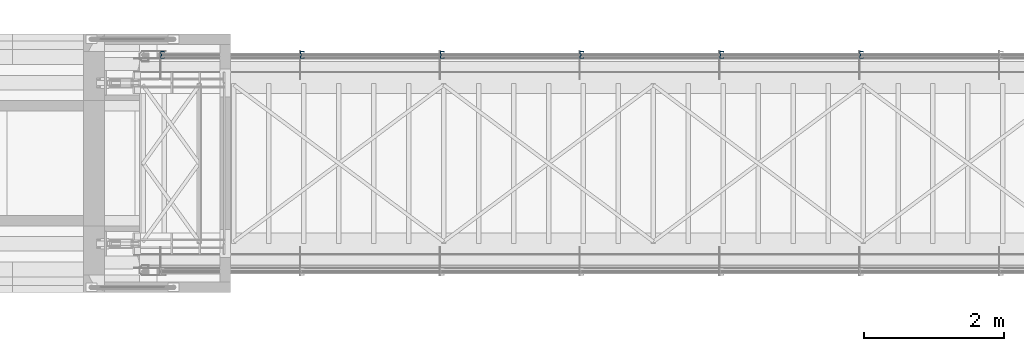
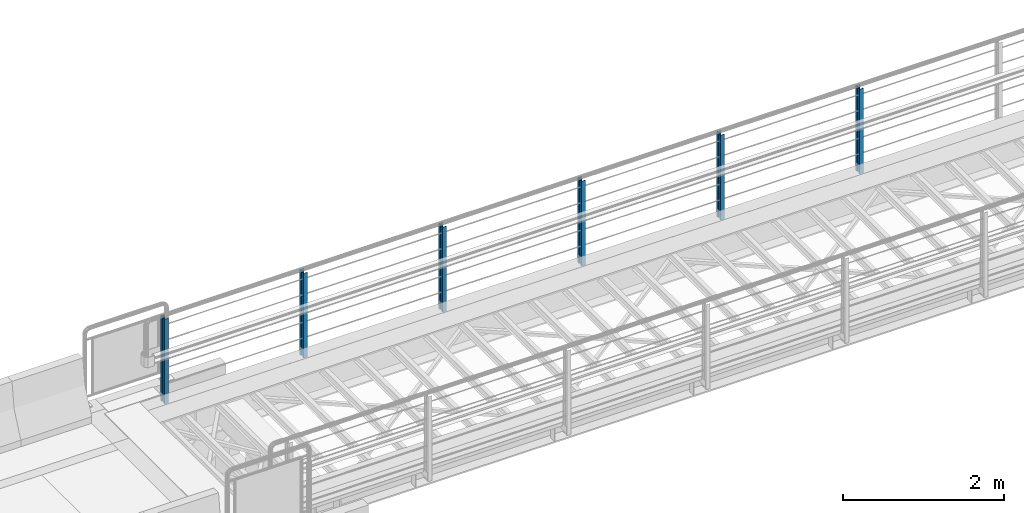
# One storey, part 1 of 31: 6 columns.
"""IFC2X3 building model written with IfcOpenShell, lengths in millimetres."""

import ifcopenshell
import ifcopenshell.guid

model = None  # the IFC model being written
_history = None  # IfcOwnerHistory: only IFC2X3 demands one
_inside = {}  # id of a spatial element -> (the spatial element, [elements in it])
_under = {}  # id of a project, library or spatial element -> (it, [spatial elements below it])
_declared = {}  # id of a project -> (the project, [libraries it declares])
_typed = {}  # id of a type object -> (the type object, [elements of that type])
_made_of = {}  # id of a material, layer set ... -> (it, [elements and type objects made of it])


def new_model(schema):
    """Start an empty IFC model of exactly this schema.

    Asked for "IFC4X3", IfcOpenShell would pick the latest addendum, in which some entities
    have other attributes; the version numbers below select the first issue.
    IFC2X3 requires an IfcOwnerHistory on every rooted entity: one is made here for all.
    """
    global model, _history
    if schema == "IFC4X3":
        model = ifcopenshell.file(schema_version=(4, 3, 0, 0))
    else:
        model = ifcopenshell.file(schema=schema)
    _inside.clear()
    _under.clear()
    _declared.clear()
    _typed.clear()
    _made_of.clear()
    _history = None
    if model.schema == "IFC2X3":
        org = make("IfcOrganization", Name="unknown")
        user = make(
            "IfcPersonAndOrganization",
            ThePerson=make("IfcPerson", FamilyName="unknown"),
            TheOrganization=org,
        )
        app = make(
            "IfcApplication",
            ApplicationDeveloper=org,
            Version="unknown",
            ApplicationFullName="unknown",
            ApplicationIdentifier="unknown",
        )
        _history = make(
            "IfcOwnerHistory",
            OwningUser=user,
            OwningApplication=app,
            ChangeAction="ADDED",
            CreationDate=0,
        )
    return model


def make(cls, **values):
    """One entity of the class cls with the attributes given. An attribute that is None is left unset."""
    return model.create_entity(
        cls, **{name: value for name, value in values.items() if value is not None}
    )


def rooted(cls, **values):
    """An entity with a GlobalId (a new one), such as an element, a storey or a relation."""
    return make(cls, GlobalId=ifcopenshell.guid.new(), OwnerHistory=_history, **values)


def si_unit(unit_type, name, prefix=None):
    """IfcSIUnit, for example si_unit("LENGTHUNIT", "METRE", prefix="MILLI")."""
    return make("IfcSIUnit", UnitType=unit_type, Prefix=prefix, Name=name)


def assignment(units):
    """IfcUnitAssignment: the units of a project."""
    return None if units is None else make("IfcUnitAssignment", Units=units)


def point(xyz):
    """IfcCartesianPoint."""
    return None if xyz is None else make("IfcCartesianPoint", Coordinates=xyz)


def direction(xyz):
    """IfcDirection."""
    return None if xyz is None else make("IfcDirection", DirectionRatios=xyz)


def frame(location, z_axis=None, x_axis=None):
    """IfcAxis2Placement3D, a coordinate frame: its origin and axes. An axis left out is left unset."""
    return make(
        "IfcAxis2Placement3D",
        Location=point(location),
        Axis=direction(z_axis),
        RefDirection=direction(x_axis),
    )


def origin_with_axes():
    """The frame at (0, 0, 0) with the z axis (0, 0, 1) and the x axis (1, 0, 0) written out."""
    return frame((0.0, 0.0, 0.0), z_axis=(0.0, 0.0, 1.0), x_axis=(1.0, 0.0, 0.0))


def place(relative_to, where):
    """IfcLocalPlacement: puts the frame where relative to a parent placement (None: the world)."""
    return make(
        "IfcLocalPlacement", PlacementRelTo=relative_to, RelativePlacement=where
    )


def context(
    kind, dimensions, precision=None, world=None, true_north=None, identifier=None
):
    """IfcGeometricRepresentationContext, for example the 3D "Model" context."""
    return make(
        "IfcGeometricRepresentationContext",
        ContextIdentifier=identifier,
        ContextType=kind,
        CoordinateSpaceDimension=dimensions,
        Precision=precision,
        WorldCoordinateSystem=world,
        TrueNorth=true_north,
    )


def subcontext(parent, identifier, kind, view, scale=None):
    """IfcGeometricRepresentationSubContext, for example "Body" below "Model"."""
    return make(
        "IfcGeometricRepresentationSubContext",
        ContextIdentifier=identifier,
        ContextType=kind,
        ParentContext=parent,
        TargetScale=scale,
        TargetView=view,
    )


def project(units=None, contexts=None):
    """IfcProject with its units and contexts."""
    return rooted(
        "IfcProject",
        Name="project",
        RepresentationContexts=contexts,
        UnitsInContext=assignment(units),
    )


def spatial(cls, under=None, at=None, **own):
    """A site, building, storey or space (cls), placed at a placement, below another one or the project."""
    s = rooted(cls, ObjectPlacement=at, **own)
    if under is not None:
        _under.setdefault(under.id(), (under, []))[1].append(s)
    return s


def faces_of(points, faces, orient=None, outer=None):
    """IfcFace entities. A face is a list of loops; a loop is a list of indices into points, from 0.

    orient and outer hold one flag for each loop. By default every Orientation is true, the
    first loop of a face is its IfcFaceOuterBound and the others are IfcFaceBound.
    """
    made = []
    for i, loops in enumerate(faces):
        bounds = []
        for j, loop in enumerate(loops):
            is_outer = j == 0 if outer is None else outer[i][j]
            bounds.append(
                make(
                    "IfcFaceOuterBound" if is_outer else "IfcFaceBound",
                    Bound=make("IfcPolyLoop", Polygon=[points[k] for k in loop]),
                    Orientation=True if orient is None else orient[i][j],
                )
            )
        made.append(make("IfcFace", Bounds=bounds))
    return made


def faceted_brep(points, faces, orient=None, outer=None, voids=None):
    """IfcFacetedBrep: a solid bounded by flat faces; with voids (closed shells), ...WithVoids."""
    shared = [point(p) for p in points]
    hull = make("IfcClosedShell", CfsFaces=faces_of(shared, faces, orient, outer))
    if voids is None:
        return make("IfcFacetedBrep", Outer=hull)
    return make(
        "IfcFacetedBrepWithVoids",
        Outer=hull,
        Voids=[
            make(cls, CfsFaces=faces_of(shared, fs, o, b)) for cls, fs, o, b in voids
        ],
    )


def shape(context_of_items, identifier, shape_type, items):
    """IfcShapeRepresentation: the items that make up one representation, for example the "Body"."""
    return make(
        "IfcShapeRepresentation",
        ContextOfItems=context_of_items,
        RepresentationIdentifier=identifier,
        RepresentationType=shape_type,
        Items=items,
    )


def material(Name=None, Category=None):
    """IfcMaterial."""
    return make("IfcMaterial", Name=Name, Category=Category)


def made_of(thing, what):
    """Note that an element or type object is made of a material, layer set ...; save() writes the relation."""
    if what is not None:
        _made_of.setdefault(what.id(), (what, []))[1].append(thing)
    return thing


def type_object(cls, material=None, **own):
    """A type object (cls), such as IfcWallType, which elements share."""
    return made_of(rooted(cls, **own), material)


def element(
    cls,
    number,
    at=None,
    inside=None,
    cuts=None,
    type_object=None,
    material=None,
    context=None,
    identifier="Body",
    shape_type=None,
    held_by="IfcProductDefinitionShape",
    body=None,
    shapes=None,
    **own,
):
    """One element of the class cls, such as IfcWall. Its Tag is "e" and its number.

    at: its placement. inside: the storey or other place that contains it. cuts: it is an
    opening in that element (IfcRelVoidsElement). A single representation is given by context,
    identifier, shape_type and body (its items); several are given by shapes. held_by: the class
    of the entity that holds the representations. save() writes the other relations.
    """
    e = rooted(cls, Tag="e%d" % number, ObjectPlacement=at, **own)
    if body is not None:
        shapes = [shape(context, identifier, shape_type, body)]
    if shapes is not None:
        e.Representation = make(held_by, Representations=shapes)
    if inside is not None:
        _inside.setdefault(inside.id(), (inside, []))[1].append(e)
    if cuts is not None:
        rooted(
            "IfcRelVoidsElement", RelatingBuildingElement=cuts, RelatedOpeningElement=e
        )
    if type_object is not None:
        _typed.setdefault(type_object.id(), (type_object, []))[1].append(e)
    return made_of(e, material)


def aggregate(whole, parts):
    """IfcRelAggregates: a whole, such as a stair, and the parts it consists of."""
    return rooted("IfcRelAggregates", RelatingObject=whole, RelatedObjects=parts)


def save(model, path):
    """Write the relations noted so far, then the file.

    IfcRelAggregates (storeys below a building ...), IfcRelContainedInSpatialStructure (elements
    in a storey), IfcRelDefinesByType, IfcRelAssociatesMaterial and IfcRelDeclares: one each for
    every whole, place, type object, material and project.
    """
    for whole, parts in _under.values():
        aggregate(whole, parts)
    for where, things in _inside.values():
        rooted(
            "IfcRelContainedInSpatialStructure",
            RelatedElements=things,
            RelatingStructure=where,
        )
    for kind, things in _typed.values():
        rooted("IfcRelDefinesByType", RelatedObjects=things, RelatingType=kind)
    for what, things in _made_of.values():
        rooted("IfcRelAssociatesMaterial", RelatedObjects=things, RelatingMaterial=what)
    for by, libraries in _declared.values():
        rooted("IfcRelDeclares", RelatingContext=by, RelatedDefinitions=libraries)
    model.write(path)


model = new_model("IFC2X3")

# Units and contexts
model_context = context("Model", 3, precision=1e-05, world=origin_with_axes())
body_context = subcontext(model_context, "Body", "Model", "MODEL_VIEW")
ifc_project = project(units=[si_unit("LENGTHUNIT", "METRE", prefix="MILLI"), si_unit("AREAUNIT", "SQUARE_METRE"), si_unit("VOLUMEUNIT", "CUBIC_METRE"), si_unit("MASSUNIT", "GRAM", prefix="KILO"), si_unit("TIMEUNIT", "SECOND"), si_unit("PLANEANGLEUNIT", "RADIAN"), si_unit("SOLIDANGLEUNIT", "STERADIAN"), si_unit("THERMODYNAMICTEMPERATUREUNIT", "DEGREE_CELSIUS"), si_unit("LUMINOUSINTENSITYUNIT", "LUMEN")], contexts=[model_context])

# Site, building, storey
site_placement = place(None, origin_with_axes())
site = spatial("IfcSite", under=ifc_project, at=site_placement, Name="Undefined", CompositionType="ELEMENT")
building_placement = place(site_placement, origin_with_axes())
building = spatial("IfcBuilding", under=site, at=building_placement, Name="Undefined", CompositionType="ELEMENT")
storey_placement = place(building_placement, origin_with_axes())
storey = spatial("IfcBuildingStorey", under=building, at=storey_placement, Name="Undefined", CompositionType="ELEMENT", Elevation=0.0)

# Columns
ifc_material = material(Name="STEEL/S355J2+N")
column_type = type_object("IfcColumnType", Name="CW100-5-10*55-10-30", PredefinedType="NOTDEFINED")
for number, where, z_axis, x_axis in (
    (1, (3427.5, 2700.0, -150.0), (0.0, -1.0, 0.0), (0.0, 0.0, 1.0)),
    (2, (5427.5, 2700.0, -150.0), (0.0, -1.0, 0.0), (0.0, 0.0, 1.0)),
    (3, (7427.5, 2700.0, -150.0), (0.0, -1.0, 0.0), (0.0, 0.0, 1.0)),
    (4, (9427.5, 2700.0, -150.0), (0.0, -1.0, 0.0), (0.0, 0.0, 1.0)),
    (5, (11427.5, 2700.0, -150.0), (0.0, -1.0, 0.0), (0.0, 0.0, 1.0)),
    (6, (13427.5, 2700.0, -150.0), (0.0, -1.0, 0.0), (0.0, 0.0, 1.0)),
):
    element("IfcColumn", number, at=place(storey_placement, frame(where, z_axis=z_axis, x_axis=x_axis)), inside=storey, type_object=column_type, material=ifc_material, Name="STOLPE", context=body_context, shape_type="Brep", body=[
        faceted_brep([(0.0, -27.5, -50.0), (0.0, 27.5, -50.0), (1290.0, 27.5, -50.0), (1290.0, -27.5, -50.0), (0.0, 27.5, -20.0), (1290.0, 27.5, -20.0), (0.0, 17.5, -10.0), (1290.0, 17.5, -10.0), (0.0, 17.5, 10.0), (1290.0, 17.5, 10.0), (0.0, 27.5, 20.0), (1290.0, 27.5, 20.0), (0.0, 27.5, 50.0), (1290.0, 27.5, 50.0), (0.0, -27.5, 50.0), (1290.0, -27.5, 50.0), (0.0, -27.5, 40.0), (1290.0, -27.5, 40.0), (0.0, -22.5, 40.0), (1290.0, -22.5, 40.0), (0.0, -22.5, 45.0), (1290.0, -22.5, 45.0), (0.0, 22.5, 45.0), (1290.0, 22.5, 45.0), (0.0, 22.5, 21.9149999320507), (1290.0, 22.5, 21.9149999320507), (0.0, 12.5, 11.9149999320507), (1290.0, 12.5, 11.9149999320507), (0.0, 12.5, -11.9149999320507), (1290.0, 12.5, -11.9149999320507), (0.0, 22.5, -21.9149999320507), (1290.0, 22.5, -21.9149999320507), (0.0, 22.5, -45.0), (1290.0, 22.5, -45.0), (0.0, -22.5, -45.0), (1290.0, -22.5, -45.0), (0.0, -22.5, -40.0), (1290.0, -22.5, -40.0), (0.0, -27.5, -40.0), (1290.0, -27.5, -40.0)], [[[0, 1, 2, 3]], [[1, 4, 5, 2]], [[4, 6, 7, 5]], [[6, 8, 9, 7]], [[8, 10, 11, 9]], [[10, 12, 13, 11]], [[12, 14, 15, 13]], [[14, 16, 17, 15]], [[16, 18, 19, 17]], [[18, 20, 21, 19]], [[20, 22, 23, 21]], [[22, 24, 25, 23]], [[24, 26, 27, 25]], [[26, 28, 29, 27]], [[28, 30, 31, 29]], [[30, 32, 33, 31]], [[32, 34, 35, 33]], [[34, 36, 37, 35]], [[36, 38, 39, 37]], [[38, 0, 3, 39]], [[5, 7, 9, 11, 13, 15, 17, 19, 21, 23, 25, 27, 29, 31, 33, 35, 37, 39, 3, 2]], [[38, 36, 34, 32, 30, 28, 26, 24, 22, 20, 18, 16, 14, 12, 10, 8, 6, 4, 1, 0]]]),
    ])

save(model, "model.ifc")
